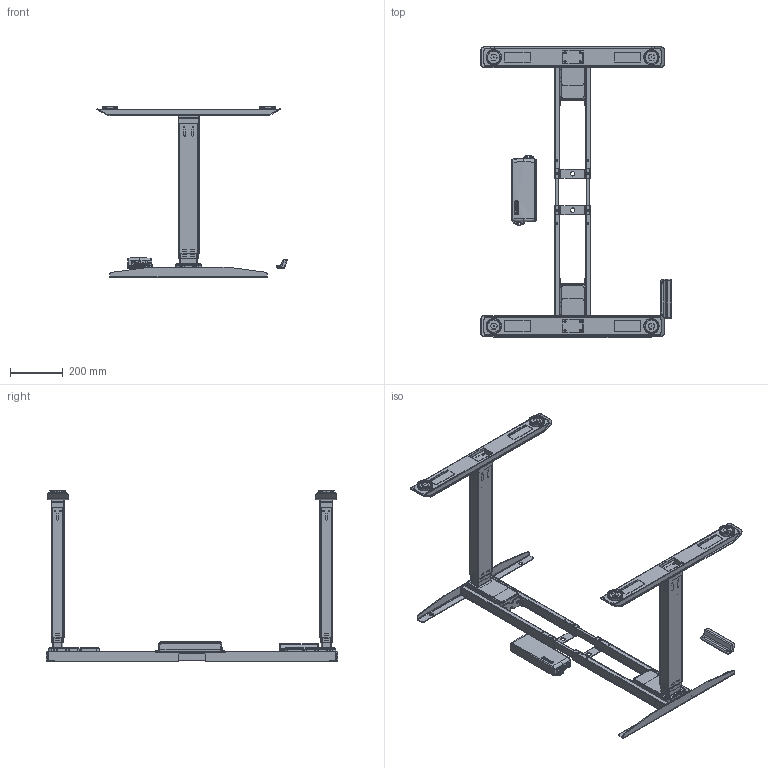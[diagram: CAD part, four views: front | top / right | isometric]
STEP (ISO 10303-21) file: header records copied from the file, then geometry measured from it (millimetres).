
FILE_DESCRIPTION(('CATIA V5 STEP Exchange'),'2;1');
FILE_NAME('D:\工作资料-2020\翁盛丰\11月\8份桌架图\AK2YJYT-TYZB3 【640-1290】常规\3D\AK2YJYT-TYZB3.stp','2020-11-18T05:47:11+00:00',('none'),('none'),'CATIA Version 5 Release 21 GA (IN-10)','CATIA V5 STEP AP203','none');
FILE_SCHEMA(('CONFIG_CONTROL_DESIGN'));
Products named in the file (6): AK2YJYT-TYZB3; 1.01.020.X AK-ZHHL01YJ-M500A-V2; Product2; 1.15.040.X AK-TYZB3-XG01-526-58; 1.13.069.X AK-TYZB3-SG01-548/47LS; 1.12.008.X AK-DJ01-700X
Assembly tree (35 placements, depth 4):
  AK2YJYT-TYZB3
    1.01.020.X AK-ZHHL01YJ-M500A-V2  x2
      #66
      #837
      #1237
      #2094
      #3251
    #4830  x2
    #5751  x2
    Product2  x2
      #7176
      1.15.040.X AK-TYZB3-XG01-526-58
        #9757
        #10718
      1.13.069.X AK-TYZB3-SG01-548/47LS
        #11874
        #14738
        #23491
    1.12.008.X AK-DJ01-700X  x2
      #25742
      #28980
    #29839  x4
    #36819
    #89420
    #95753
    #141054
Bounding box: 725.63 x 1109.98 x 653.75 mm (x, y, z)
Volume: 3232906.8 mm3; surface area: 3335201.7 mm2
Topology: 41 solids, 801 shells, 6001 faces, 18332 edges, 13102 vertices
Faces by surface type: cylinder 2688, plane 2144, bspline 633, torus 230, cone 134, sphere 124, extrusion 48
Entity records: 186274 total; most frequent: CARTESIAN_POINT 80859, ORIENTED_EDGE 23252, DIRECTION 14389, EDGE_CURVE 13593, VERTEX_POINT 10108, VECTOR 6005, LINE 5957, AXIS2_PLACEMENT_3D 5474
